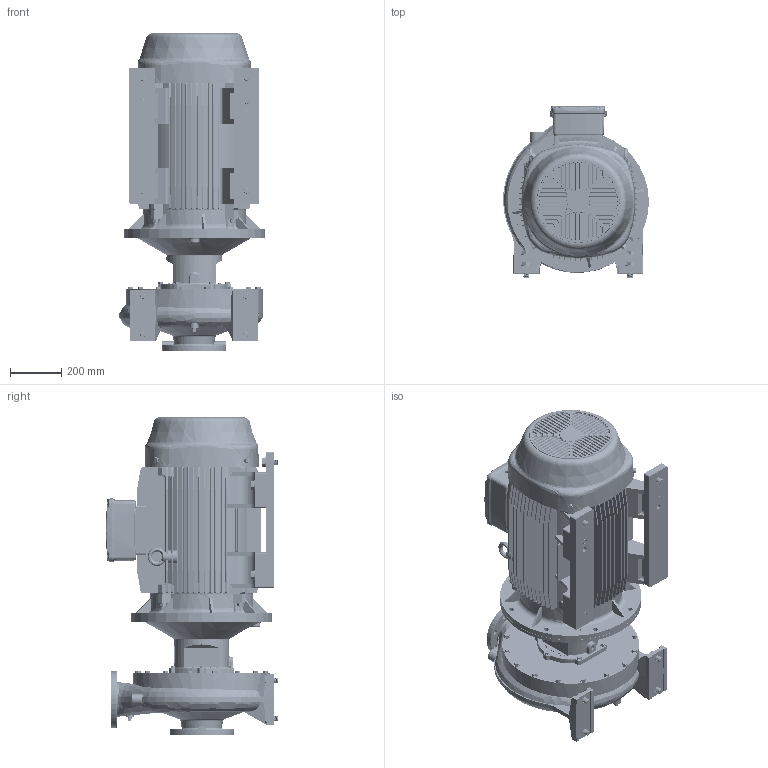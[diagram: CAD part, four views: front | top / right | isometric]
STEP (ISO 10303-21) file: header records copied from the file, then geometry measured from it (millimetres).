
FILE_DESCRIPTION (( 'STEP AP214' ), '1' );
FILE_NAME ('GSD4 100-400_55_(250SM)_W21.STEP', '2026-07-01T05:17:29', ( '' ), ( '' ), 'SwSTEP 2.0', 'SolidWorks 2024', '' );
FILE_SCHEMA (( 'AUTOMOTIVE_DESIGN' ));
Length unit declared in the file: millimetre
Products named in the file (10): Parametric bolt and washer_SFT-A417B; 100x30 - CGSDA-5291; 250S_M4P IE3_W21T_B35; Parametric Flat Washer_M20; A407B Bolt_407; Parametric bolt and washer_SFT-A403B; GSD4 100-400_55_(250SM)_W21; Parametric bolt_SFT-A417B; 100-400-250S_M_ﾃﾞﾌｫﾙﾄ; Parametric bolt_SFT-A403B
Assembly tree (20 placements, depth 3):
  GSD4 100-400_55_(250SM)_W21
    100-400-250S_M_ﾃﾞﾌｫﾙﾄ
    250S_M4P IE3_W21T_B35
    100x30 - CGSDA-5291  x2
    Parametric bolt and washer_SFT-A403B  x4
      Parametric bolt_SFT-A403B
      Parametric Flat Washer_M20
    Parametric bolt and washer_SFT-A417B  x4
      Parametric bolt_SFT-A417B
      Parametric Flat Washer_M20
    A407B Bolt_407  x2
    Parametric Flat Washer_M20  x2
Bounding box: 567.5 x 670 x 1240.5 mm (x, y, z)
Volume: 166574584.9 mm3; surface area: 5822584.3 mm2
Topology: 32 solids, 37 shells, 4247 faces, 11150 edges, 7110 vertices
Faces by surface type: plane 1688, cylinder 1451, cone 517, bspline 315, torus 258, sphere 18
Entity records: 168946 total; most frequent: CARTESIAN_POINT 82427, ORIENTED_EDGE 19086, DIRECTION 16965, EDGE_CURVE 9543, AXIS2_PLACEMENT_3D 6192, VERTEX_POINT 6071, LINE 4581, VECTOR 4581
